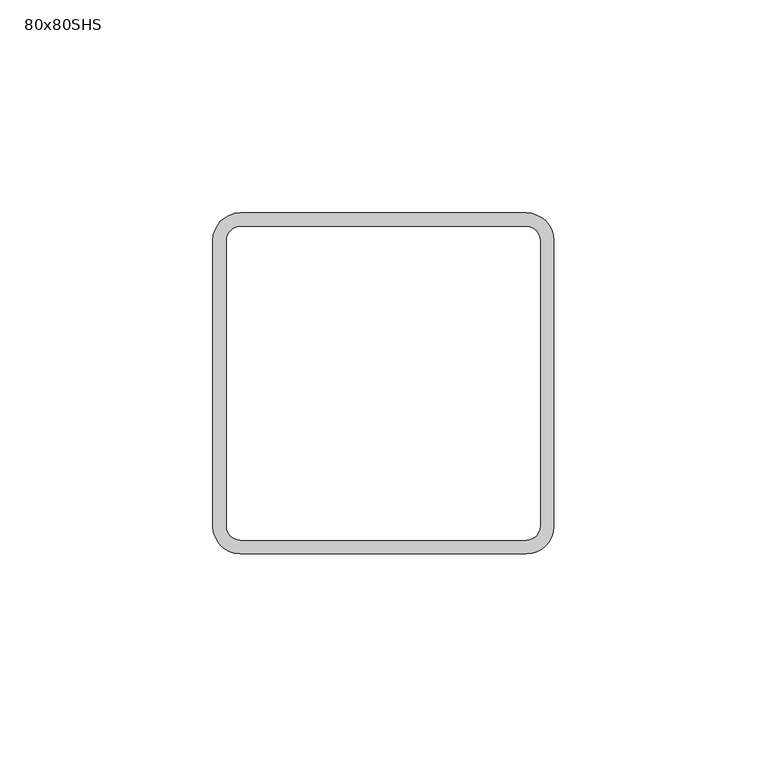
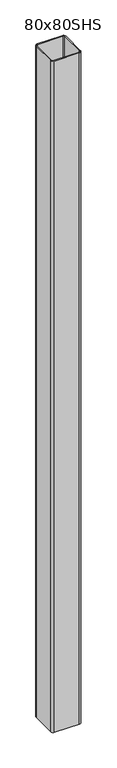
"""IFC4 building model written with IfcOpenShell, lengths in millimetres: column geometry, Poteau - Profil creux carré SHS : 80x80SHS."""

from ifc_helpers import new_model, si_unit, point, frame, frame_2d, origin, place, context, project, spatial, polyline, circle_curve, trimmed, segment, composite_curve, outline, extrude, source, transform, mapped, element, save


def column_80x80shs_1e22b8e8(model_context):
    return source(origin(), model_context, "Body", "SweptSolid", [
        extrude(outline(composite_curve([segment(trimmed(circle_curve(frame_2d((33.6, 33.6)), 6.4), [point((33.6, 40.0))], [point((40.0, 33.6))], False, "CARTESIAN"), True, "CONTINUOUS"), segment(polyline([(40.0, 33.6), (40.0, -33.6)]), True, "CONTINUOUS"), segment(trimmed(circle_curve(frame_2d((33.6, -33.6)), 6.4), [point((40.0, -33.6))], [point((33.6, -40.0))], False, "CARTESIAN"), True, "CONTINUOUS"), segment(polyline([(33.6, -40.0), (-33.6, -40.0)]), True, "CONTINUOUS"), segment(trimmed(circle_curve(frame_2d((-33.6, -33.6)), 6.4), [point((-33.6, -40.0))], [point((-40.0, -33.6))], False, "CARTESIAN"), True, "CONTINUOUS"), segment(polyline([(-40.0, -33.6), (-40.0, 33.6)]), True, "CONTINUOUS"), segment(trimmed(circle_curve(frame_2d((-33.6, 33.6)), 6.4), [point((-40.0, 33.6))], [point((-33.6, 40.0))], False, "CARTESIAN"), True, "CONTINUOUS"), segment(polyline([(-33.6, 40.0), (33.6, 40.0)]), True, "CONTINUOUS")], self_intersect=False), holes=[composite_curve([segment(polyline([(33.6, 36.8), (-33.6, 36.8)]), True, "CONTINUOUS"), segment(trimmed(circle_curve(frame_2d((-33.6, 33.6)), 3.2), [point((-33.6, 36.8))], [point((-36.8, 33.6))], True, "CARTESIAN"), True, "CONTINUOUS"), segment(polyline([(-36.8, 33.6), (-36.8, -33.6)]), True, "CONTINUOUS"), segment(trimmed(circle_curve(frame_2d((-33.6, -33.6)), 3.2), [point((-36.8, -33.6))], [point((-33.6, -36.8))], True, "CARTESIAN"), True, "CONTINUOUS"), segment(polyline([(-33.6, -36.8), (33.6, -36.8)]), True, "CONTINUOUS"), segment(trimmed(circle_curve(frame_2d((33.6, -33.6)), 3.2), [point((33.6, -36.8))], [point((36.8, -33.6))], True, "CARTESIAN"), True, "CONTINUOUS"), segment(polyline([(36.8, -33.6), (36.8, 33.6)]), True, "CONTINUOUS"), segment(trimmed(circle_curve(frame_2d((33.6, 33.6)), 3.2), [point((36.8, 33.6))], [point((33.6, 36.8))], True, "CARTESIAN"), True, "CONTINUOUS")], self_intersect=False)]), frame((0.0, 0.0, 5990.0), z_axis=(0.0, 0.0, 1.0), x_axis=(1.0, 0.0, 0.0)), (0.0, 0.0, 1.0), 1910.0),
    ])


if __name__ == "__main__":
    model = new_model("IFC4")
    model_context = context("Model", 3, world=origin())
    ifc_project = project(units=[si_unit("LENGTHUNIT", "METRE", prefix="MILLI")], contexts=[model_context])
    site = spatial("IfcSite", under=ifc_project)
    building = spatial("IfcBuilding", under=site)
    placement = place(None, origin())
    column_80x80shs_shape = column_80x80shs_1e22b8e8(model_context)
    element("IfcColumn", 1, ObjectType="Poteau - Profil creux carré SHS : 80x80SHS", at=placement, inside=building, context=model_context, shape_type="MappedRepresentation", body=[
        mapped(column_80x80shs_shape, transform((0.0, 0.0, 0.0), x_axis=(1.0, 0.0, 0.0), y_axis=(0.0, 1.0, 0.0), z_axis=(0.0, 0.0, 1.0))),
    ])
    save(model, "model.ifc")
